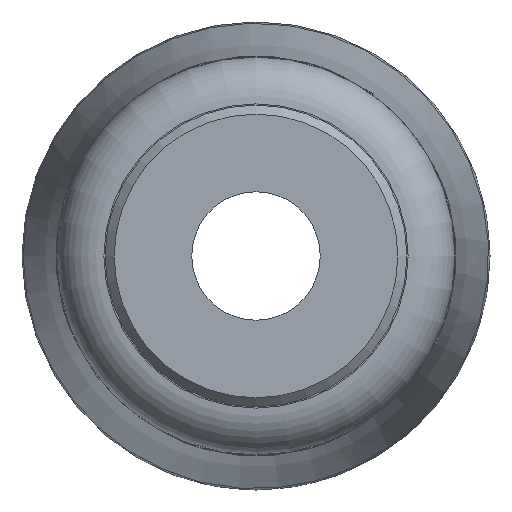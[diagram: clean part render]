
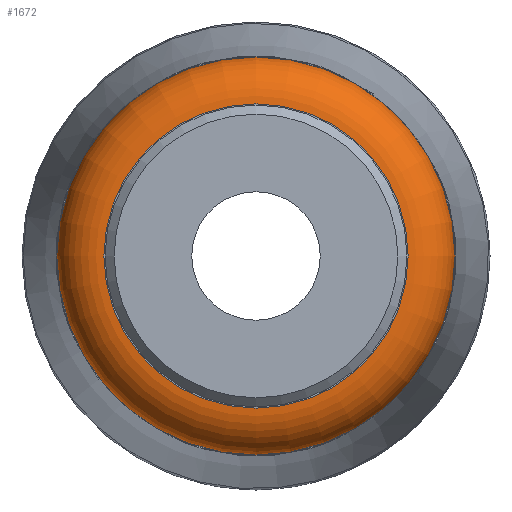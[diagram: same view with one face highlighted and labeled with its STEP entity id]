
A CAD part, left-side view. The second image highlights one B-rep face of the part: STEP entity #1672.
In plain terms, the highlighted toroidal (fillet/blend) face has major radius 13.325 mm and minor radius 4.1 mm.
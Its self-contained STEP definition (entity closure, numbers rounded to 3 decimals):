
#16=TOROIDAL_SURFACE('',#1828,13.325,4.1);
#353=FACE_BOUND('',#498,.T.);
#388=FACE_OUTER_BOUND('',#497,.T.);
#497=EDGE_LOOP('',(#1219));
#498=EDGE_LOOP('',(#1220));
#613=CIRCLE('',#1807,17.425);
#626=CIRCLE('',#1829,13.325);
#725=VERTEX_POINT('',#2850);
#735=VERTEX_POINT('',#2907);
#896=EDGE_CURVE('',#725,#725,#613,.T.);
#912=EDGE_CURVE('',#735,#735,#626,.T.);
#1219=ORIENTED_EDGE('',*,*,#912,.T.);
#1220=ORIENTED_EDGE('',*,*,#896,.T.);
#1672=ADVANCED_FACE('',(#388,#353),#16,.T.);
#1807=AXIS2_PLACEMENT_3D('',#2851,#2076,#2077);
#1828=AXIS2_PLACEMENT_3D('',#2906,#2119,#2120);
#1829=AXIS2_PLACEMENT_3D('',#2908,#2121,#2122);
#2076=DIRECTION('center_axis',(-1.,0.,0.));
#2077=DIRECTION('ref_axis',(0.,-1.,0.));
#2119=DIRECTION('center_axis',(1.,0.,0.));
#2120=DIRECTION('ref_axis',(0.,0.,-1.));
#2121=DIRECTION('center_axis',(1.,0.,0.));
#2122=DIRECTION('ref_axis',(0.,-1.,0.));
#2850=CARTESIAN_POINT('',(21.1,17.425,0.));
#2851=CARTESIAN_POINT('Origin',(21.1,0.,0.));
#2906=CARTESIAN_POINT('Origin',(21.1,0.,0.));
#2907=CARTESIAN_POINT('',(17.,13.325,0.));
#2908=CARTESIAN_POINT('Origin',(17.,0.,0.));
